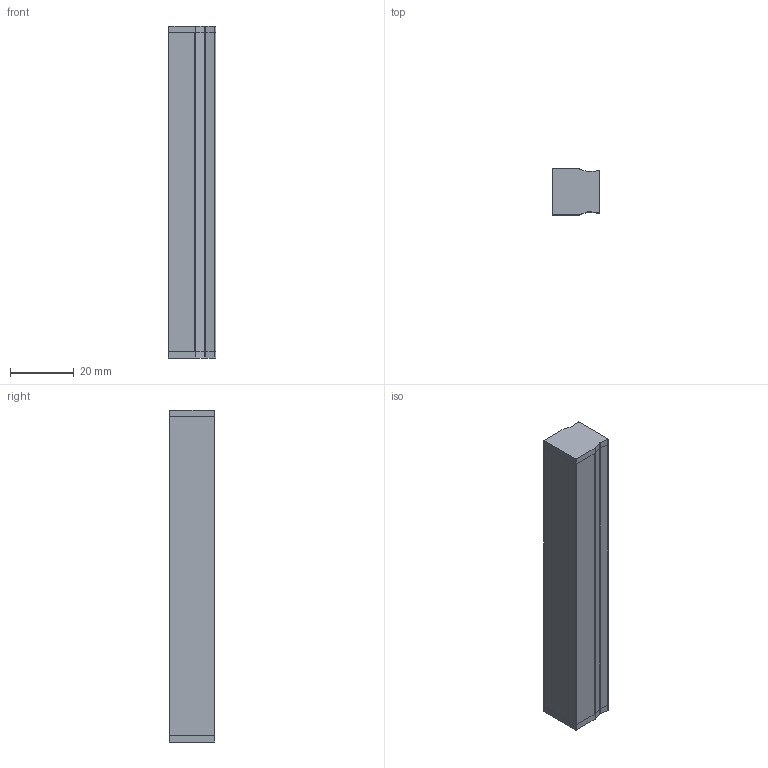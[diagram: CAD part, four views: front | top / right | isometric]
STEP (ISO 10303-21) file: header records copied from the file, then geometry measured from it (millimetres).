
FILE_DESCRIPTION(/* description */ ('GTV-137 LED profile applied mini'),/* implementation_level */ '2;1');
FILE_NAME(/* name */ 'D:\$Workingspace\Designs\Profile\137 - Profil LED nakładany mały\kwadratowy 137.stp',/* time_stamp */ '2017-12-19T15:05:31+01:00',/* author */ ('tomaszw'),/* organization */ (''),/* preprocessor_version */ 'ST-DEVELOPER v16.1',/* originating_system */ 'Autodesk Inventor 2016',/* authorisation */ '');
FILE_SCHEMA (('CONFIG_CONTROL_DESIGN'));
Length unit declared in the file: millimetre
Products named in the file (4): 137 - Profil LED nakładany mały  
ver2-02; Mini Cover for LED Rails Kwadratowy-01; Zaślepka kwadrat do profilu LED GLAX Mini na
kładany ; 3 wersje złożen na targi 2018
Assembly tree (4 placements, depth 2):
  3 wersje złożen na targi 2018
    137 - Profil LED nakładany mały  
ver2-02
    Mini Cover for LED Rails Kwadratowy-01
    Zaślepka kwadrat do profilu LED GLAX Mini na
kładany   x2
Bounding box: 14.9 x 14.25 x 104 mm (x, y, z)
Volume: 7404.4 mm3; surface area: 14899.2 mm2
Topology: 4 solids, 4 shells, 230 faces, 648 edges, 428 vertices
Faces by surface type: plane 137, cylinder 93
Entity records: 5370 total; most frequent: DIRECTION 922, CARTESIAN_POINT 915, ORIENTED_EDGE 900, EDGE_CURVE 450, LINE 312, VECTOR 312, AXIS2_PLACEMENT_3D 305, VERTEX_POINT 298
